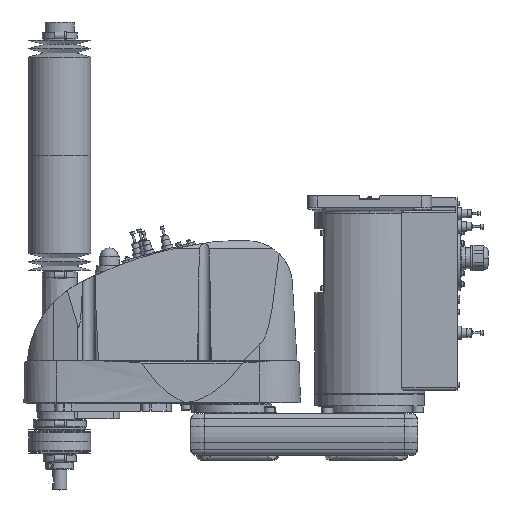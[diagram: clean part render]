
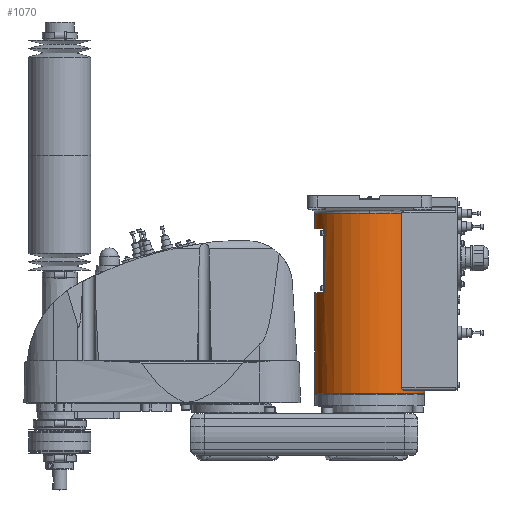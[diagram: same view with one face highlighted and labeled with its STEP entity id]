
A CAD part, top view. The second image highlights one B-rep face of the part: STEP entity #1070.
In plain terms, the highlighted cylindrical face has radius 80 mm (diameter 160 mm), a partial arc.
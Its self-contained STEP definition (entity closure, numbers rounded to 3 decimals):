
#1070 = ADVANCED_FACE( '', ( #3661 ), #3662, .T. );
#3661 = FACE_OUTER_BOUND( '', #7593, .T. );
#3662 = CYLINDRICAL_SURFACE( '', #7594, 80. );
#7593 = EDGE_LOOP( '', ( #15227, #15228, #15229, #15230, #15231, #15232, #15233, #15234, #15235, #15236, #15237, #15238 ) );
#7594 = AXIS2_PLACEMENT_3D( '', #15239, #15240, #15241 );
#15227 = ORIENTED_EDGE( '', *, *, #24354, .T. );
#15228 = ORIENTED_EDGE( '', *, *, #25814, .T. );
#15229 = ORIENTED_EDGE( '', *, *, #25810, .T. );
#15230 = ORIENTED_EDGE( '', *, *, #25840, .T. );
#15231 = ORIENTED_EDGE( '', *, *, #24405, .F. );
#15232 = ORIENTED_EDGE( '', *, *, #24411, .F. );
#15233 = ORIENTED_EDGE( '', *, *, #24360, .T. );
#15234 = ORIENTED_EDGE( '', *, *, #25621, .T. );
#15235 = ORIENTED_EDGE( '', *, *, #25623, .T. );
#15236 = ORIENTED_EDGE( '', *, *, #25624, .T. );
#15237 = ORIENTED_EDGE( '', *, *, #24356, .T. );
#15238 = ORIENTED_EDGE( '', *, *, #25931, .T. );
#15239 = CARTESIAN_POINT( '', ( 0., 160.75, 0. ) );
#15240 = DIRECTION( '', ( 0., -1., 0. ) );
#15241 = DIRECTION( '', ( 1., 0., 0. ) );
#24354 = EDGE_CURVE( '', #28733, #28734, #28735, .T. );
#24356 = EDGE_CURVE( '', #28738, #28736, #28739, .T. );
#24360 = EDGE_CURVE( '', #28746, #28744, #28747, .T. );
#24405 = EDGE_CURVE( '', #28832, #28834, #28835, .T. );
#24411 = EDGE_CURVE( '', #28746, #28832, #28845, .T. );
#25621 = EDGE_CURVE( '', #28744, #30841, #30843, .T. );
#25623 = EDGE_CURVE( '', #30841, #30844, #30846, .T. );
#25624 = EDGE_CURVE( '', #30844, #28738, #30847, .T. );
#25810 = EDGE_CURVE( '', #31139, #31140, #31141, .T. );
#25814 = EDGE_CURVE( '', #28734, #31139, #31145, .T. );
#25840 = EDGE_CURVE( '', #31140, #28834, #31184, .T. );
#25931 = EDGE_CURVE( '', #28736, #28733, #31321, .T. );
#28733 = VERTEX_POINT( '', #35917 );
#28734 = VERTEX_POINT( '', #35918 );
#28735 = LINE( '', #35919, #35920 );
#28736 = VERTEX_POINT( '', #35921 );
#28738 = VERTEX_POINT( '', #35923 );
#28739 = LINE( '', #35924, #35925 );
#28744 = VERTEX_POINT( '', #35931 );
#28746 = VERTEX_POINT( '', #35933 );
#28747 = LINE( '', #35934, #35935 );
#28832 = VERTEX_POINT( '', #36056 );
#28834 = VERTEX_POINT( '', #36058 );
#28835 = CIRCLE( '', #36059, 80. );
#28845 = CIRCLE( '', #36106, 80. );
#30841 = VERTEX_POINT( '', #38900 );
#30843 = CIRCLE( '', #38903, 80. );
#30844 = VERTEX_POINT( '', #38904 );
#30846 = LINE( '', #38907, #38908 );
#30847 = CIRCLE( '', #38909, 80. );
#31139 = VERTEX_POINT( '', #39394 );
#31140 = VERTEX_POINT( '', #39395 );
#31141 = B_SPLINE_CURVE_WITH_KNOTS( '', 3, ( #39396, #39397, #39398, #39399, #39400, #39401, #39402, #39403, #39404, #39405, #39406, #39407, #39408, #39409, #39410, #39411 ), .UNSPECIFIED., .F., .F., ( 4, 2, 2, 2, 2, 2, 2, 4 ), ( -6.06, -5.11, -4.16, -2.26, -1.695, -1.13, -0.565, 0. ), .UNSPECIFIED. );
#31145 = CIRCLE( '', #39418, 80. );
#31184 = LINE( '', #39524, #39525 );
#31321 = CIRCLE( '', #39797, 80. );
#35917 = CARTESIAN_POINT( '', ( 80., 30., 0. ) );
#35918 = CARTESIAN_POINT( '', ( 80., 34.5, 0. ) );
#35919 = CARTESIAN_POINT( '', ( 80., 160.75, 0. ) );
#35920 = VECTOR( '', #49766, 1. );
#35921 = CARTESIAN_POINT( '', ( -80., 30., 0. ) );
#35923 = CARTESIAN_POINT( '', ( -80., 176., 0. ) );
#35924 = CARTESIAN_POINT( '', ( -80., 160.75, 0. ) );
#35925 = VECTOR( '', #49770, 1. );
#35931 = CARTESIAN_POINT( '', ( -80., 269., 0. ) );
#35933 = CARTESIAN_POINT( '', ( -80., 291.5, 0. ) );
#35934 = CARTESIAN_POINT( '', ( -80., 160.75, 0. ) );
#35935 = VECTOR( '', #49778, 1. );
#36056 = CARTESIAN_POINT( '', ( 0., 291.5, 80. ) );
#36058 = CARTESIAN_POINT( '', ( 46.637, 291.5, 65. ) );
#36059 = AXIS2_PLACEMENT_3D( '', #49866, #49867, #49868 );
#36106 = AXIS2_PLACEMENT_3D( '', #49875, #49876, #49877 );
#38900 = CARTESIAN_POINT( '', ( -66., 269., 45.211 ) );
#38903 = AXIS2_PLACEMENT_3D( '', #51999, #52000, #52001 );
#38904 = CARTESIAN_POINT( '', ( -66., 176., 45.211 ) );
#38907 = CARTESIAN_POINT( '', ( -66., 222.5, 45.211 ) );
#38908 = VECTOR( '', #52003, 1. );
#38909 = AXIS2_PLACEMENT_3D( '', #52004, #52005, #52006 );
#39394 = CARTESIAN_POINT( '', ( 50.557, 34.5, 62. ) );
#39395 = CARTESIAN_POINT( '', ( 46.637, 37.5, 65. ) );
#39396 = CARTESIAN_POINT( '', ( 50.557, 34.5, 62. ) );
#39397 = CARTESIAN_POINT( '', ( 50.312, 34.5, 62.2 ) );
#39398 = CARTESIAN_POINT( '', ( 50.054, 34.52, 62.407 ) );
#39399 = CARTESIAN_POINT( '', ( 49.533, 34.607, 62.822 ) );
#39400 = CARTESIAN_POINT( '', ( 49.269, 34.674, 63.029 ) );
#39401 = CARTESIAN_POINT( '', ( 48.491, 34.945, 63.632 ) );
#39402 = CARTESIAN_POINT( '', ( 47.991, 35.221, 64.009 ) );
#39403 = CARTESIAN_POINT( '', ( 47.455, 35.701, 64.405 ) );
#39404 = CARTESIAN_POINT( '', ( 47.333, 35.827, 64.495 ) );
#39405 = CARTESIAN_POINT( '', ( 47.106, 36.105, 64.661 ) );
#39406 = CARTESIAN_POINT( '', ( 47.002, 36.258, 64.736 ) );
#39407 = CARTESIAN_POINT( '', ( 46.828, 36.585, 64.863 ) );
#39408 = CARTESIAN_POINT( '', ( 46.758, 36.761, 64.913 ) );
#39409 = CARTESIAN_POINT( '', ( 46.662, 37.124, 64.982 ) );
#39410 = CARTESIAN_POINT( '', ( 46.637, 37.312, 65. ) );
#39411 = CARTESIAN_POINT( '', ( 46.637, 37.5, 65. ) );
#39418 = AXIS2_PLACEMENT_3D( '', #52271, #52272, #52273 );
#39524 = CARTESIAN_POINT( '', ( 46.637, 164.5, 65. ) );
#39525 = VECTOR( '', #52302, 1. );
#39797 = AXIS2_PLACEMENT_3D( '', #52455, #52456, #52457 );
#49766 = DIRECTION( '', ( 0., 1., 0. ) );
#49770 = DIRECTION( '', ( 0., -1., 0. ) );
#49778 = DIRECTION( '', ( 0., -1., 0. ) );
#49866 = CARTESIAN_POINT( '', ( 0., 291.5, 0. ) );
#49867 = DIRECTION( '', ( 0., 1., 0. ) );
#49868 = DIRECTION( '', ( 1., 0., 0. ) );
#49875 = CARTESIAN_POINT( '', ( 0., 291.5, 0. ) );
#49876 = DIRECTION( '', ( 0., 1., 0. ) );
#49877 = DIRECTION( '', ( 1., 0., 0. ) );
#51999 = CARTESIAN_POINT( '', ( 0., 269., 0. ) );
#52000 = DIRECTION( '', ( 0., 1., 0. ) );
#52001 = DIRECTION( '', ( 1., 0., 0. ) );
#52003 = DIRECTION( '', ( 0., -1., 0. ) );
#52004 = CARTESIAN_POINT( '', ( 0., 176., 0. ) );
#52005 = DIRECTION( '', ( 0., -1., 0. ) );
#52006 = DIRECTION( '', ( 1., 0., 0. ) );
#52271 = CARTESIAN_POINT( '', ( 0., 34.5, 0. ) );
#52272 = DIRECTION( '', ( 0., -1., 0. ) );
#52273 = DIRECTION( '', ( 1., 0., 0. ) );
#52302 = DIRECTION( '', ( 0., 1., 0. ) );
#52455 = CARTESIAN_POINT( '', ( 0., 30., 0. ) );
#52456 = DIRECTION( '', ( 0., 1., 0. ) );
#52457 = DIRECTION( '', ( 1., 0., 0. ) );
